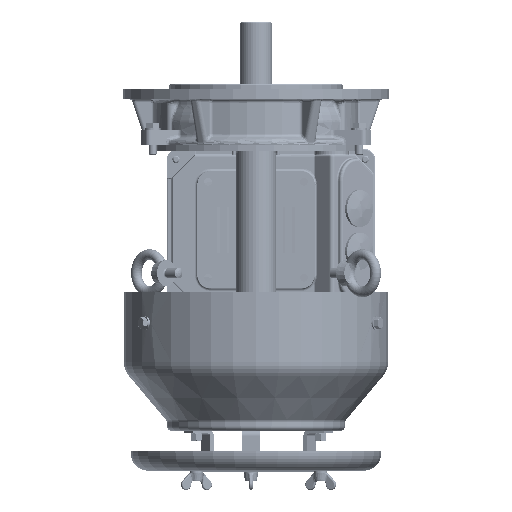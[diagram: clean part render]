
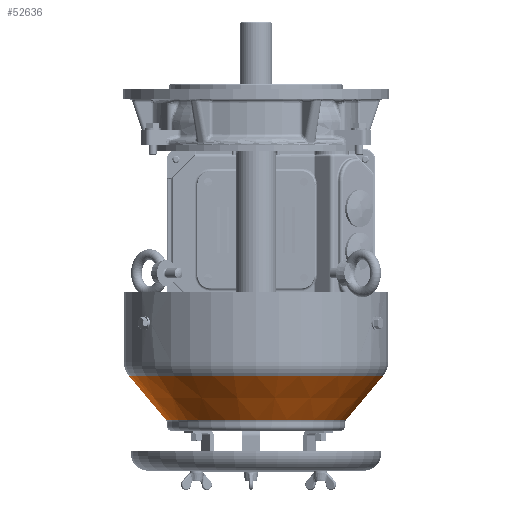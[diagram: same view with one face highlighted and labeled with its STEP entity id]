
A CAD part, front view. The second image highlights one B-rep face of the part: STEP entity #52636.
In plain terms, the highlighted conical face has half-angle 40 degrees and reference radius 67.702 mm.
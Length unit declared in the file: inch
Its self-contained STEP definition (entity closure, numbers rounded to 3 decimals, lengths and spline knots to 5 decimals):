
#22494 = DIRECTION ( 'NONE',  ( -0.643, 0., 0.766 ) ) ;
#22645 = ORIENTED_EDGE ( 'NONE', *, *, #88811, .T. ) ;
#25994 = ORIENTED_EDGE ( 'NONE', *, *, #185199, .F. ) ;
#28516 = CARTESIAN_POINT ( 'NONE',  ( 0., 0., -5.61173 ) ) ;
#32055 = CARTESIAN_POINT ( 'NONE',  ( 2.66543, 0., -5.61173 ) ) ;
#32172 = VERTEX_POINT ( 'NONE', #126463 ) ;
#37579 = CARTESIAN_POINT ( 'NONE',  ( -2.66543, 0., -5.61173 ) ) ;
#38368 = CIRCLE ( 'NONE', #126412, 2.66543 ) ;
#45662 = LINE ( 'NONE', #67430, #187970 ) ;
#52636 = ADVANCED_FACE ( 'NONE', ( #182402 ), #209729, .T. ) ;
#61262 = AXIS2_PLACEMENT_3D ( 'NONE', #28516, #114153, #70654 ) ;
#67430 = CARTESIAN_POINT ( 'NONE',  ( -2.66543, 0., -5.61173 ) ) ;
#70654 = DIRECTION ( 'NONE',  ( 1., 0., 0. ) ) ;
#72406 = VERTEX_POINT ( 'NONE', #285583 ) ;
#88811 = EDGE_CURVE ( 'NONE', #121129, #72406, #38368, .T. ) ;
#90743 = AXIS2_PLACEMENT_3D ( 'NONE', #268001, #250501, #201206 ) ;
#98756 = DIRECTION ( 'NONE',  ( 0.643, 0., 0.766 ) ) ;
#111740 = DIRECTION ( 'NONE',  ( 1., 0., 0. ) ) ;
#114153 = DIRECTION ( 'NONE',  ( 0., 0., 1. ) ) ;
#117151 = CARTESIAN_POINT ( 'NONE',  ( 3.75814, 0., -4.30949 ) ) ;
#121129 = VERTEX_POINT ( 'NONE', #37579 ) ;
#121624 = ORIENTED_EDGE ( 'NONE', *, *, #277086, .F. ) ;
#123414 = LINE ( 'NONE', #32055, #234697 ) ;
#126412 = AXIS2_PLACEMENT_3D ( 'NONE', #133535, #127782, #111740 ) ;
#126463 = CARTESIAN_POINT ( 'NONE',  ( -3.75814, 0., -4.30949 ) ) ;
#127782 = DIRECTION ( 'NONE',  ( 0., 0., 1. ) ) ;
#133535 = CARTESIAN_POINT ( 'NONE',  ( 0., 0., -5.61173 ) ) ;
#133626 = EDGE_CURVE ( 'NONE', #72406, #228912, #123414, .T. ) ;
#134534 = EDGE_LOOP ( 'NONE', ( #25994, #22645, #200777, #121624 ) ) ;
#146242 = CIRCLE ( 'NONE', #90743, 3.75814 ) ;
#182402 = FACE_OUTER_BOUND ( 'NONE', #134534, .T. ) ;
#185199 = EDGE_CURVE ( 'NONE', #121129, #32172, #45662, .T. ) ;
#187970 = VECTOR ( 'NONE', #22494, 39.37008 ) ;
#200777 = ORIENTED_EDGE ( 'NONE', *, *, #133626, .T. ) ;
#201206 = DIRECTION ( 'NONE',  ( 1., 0., 0. ) ) ;
#209729 = CONICAL_SURFACE ( 'NONE', #61262, 2.66543, 0.698 ) ;
#228912 = VERTEX_POINT ( 'NONE', #117151 ) ;
#234697 = VECTOR ( 'NONE', #98756, 39.37008 ) ;
#250501 = DIRECTION ( 'NONE',  ( 0., 0., 1. ) ) ;
#268001 = CARTESIAN_POINT ( 'NONE',  ( 0., 0., -4.30949 ) ) ;
#277086 = EDGE_CURVE ( 'NONE', #32172, #228912, #146242, .T. ) ;
#285583 = CARTESIAN_POINT ( 'NONE',  ( 2.66543, 0., -5.61173 ) ) ;
